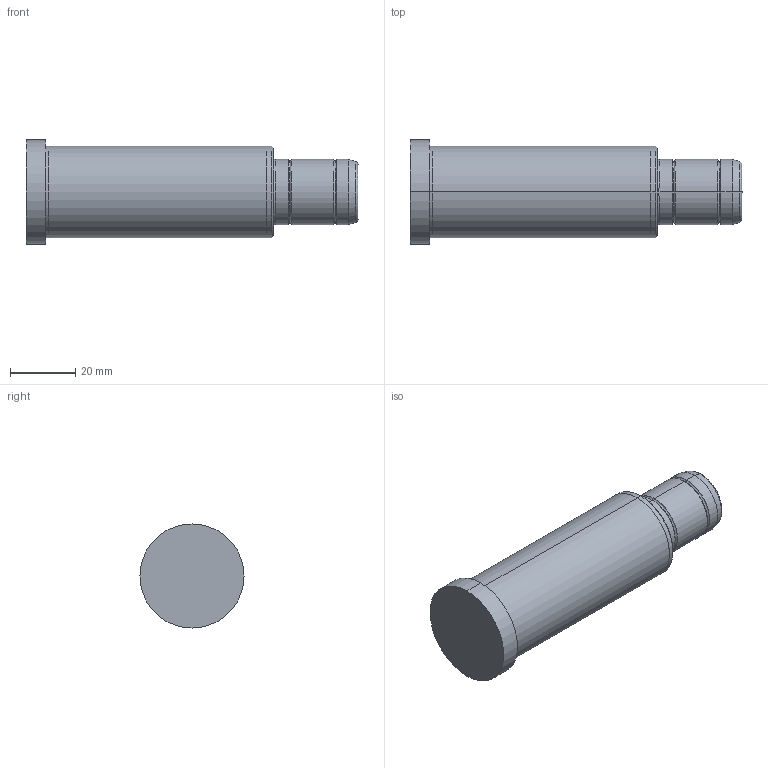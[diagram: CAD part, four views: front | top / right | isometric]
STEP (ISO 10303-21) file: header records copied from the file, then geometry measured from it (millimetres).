
FILE_DESCRIPTION( ( 'STEP AP203' ), '1' );
FILE_NAME( 'C:/Projects/D02 - 20x76x26.step', '2003-01-04T13:51:28', ( ' ' ), ( ' ' ), 'XStep 1.0', ' ', ' ' );
FILE_SCHEMA( ( 'CONFIG_CONTROL_DESIGN' ) );
Length unit declared in the file: metre
Products named in the file (1): 1
Bounding box: 102 x 32 x 32 mm (x, y, z)
Volume: 56019.3 mm3; surface area: 9971.8 mm2
Topology: 1 solids, 1 shells, 36 faces, 70 edges, 40 vertices
Faces by surface type: bspline 18, revolution 18
Entity records: 1127 total; most frequent: CARTESIAN_POINT 417, ORIENTED_EDGE 140, DIRECTION 118, EDGE_CURVE 70, AXIS2_PLACEMENT_3D 41, EDGE_LOOP 40, VERTEX_POINT 40, CIRCLE 40
